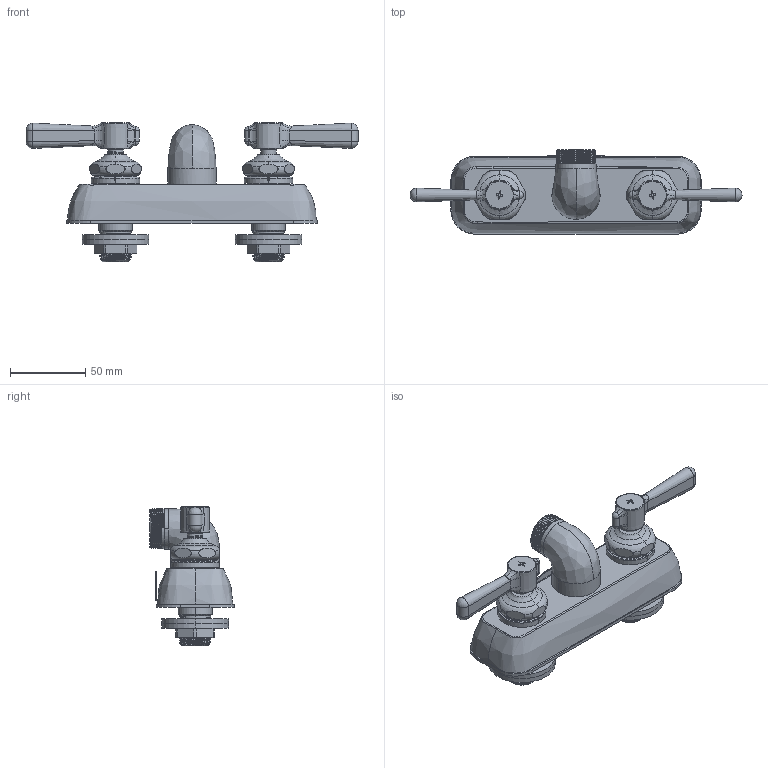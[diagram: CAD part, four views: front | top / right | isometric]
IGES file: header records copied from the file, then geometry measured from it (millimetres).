
Start section:  PTC IGES file: w4w-les369ab_sw0001.igs
Global section: file name: w4w-les369ab_sw0001.igs; native system: Creo Parametric by Parametric Technology Corporation; preprocessor: 2012360; author: jrodriguez; organization: Unknown; date: 20130305.091308; units: inch
Bounding box: 220.47 x 55.9 x 92.48 mm (x, y, z)
Surface area: 71299.1 mm2 (no closed solid volume)
Topology: 0 solids, 0 shells, 436 faces, 2377 edges, 2369 vertices
Faces by surface type: revolution 229, bspline 207
